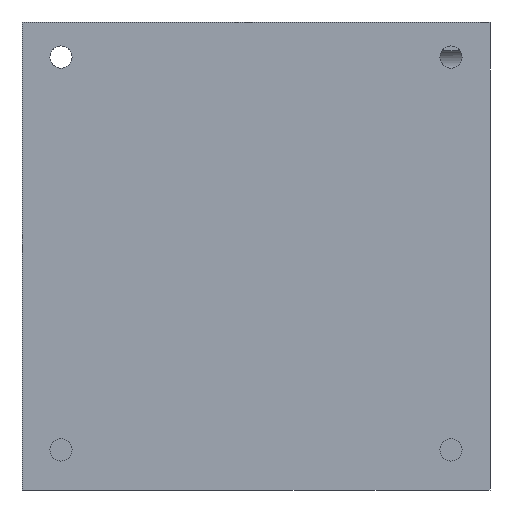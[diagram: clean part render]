
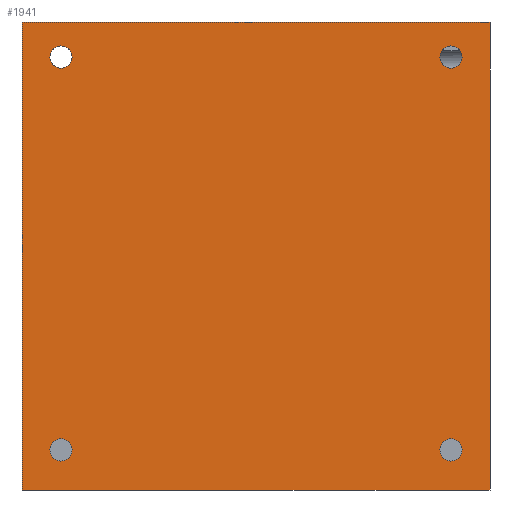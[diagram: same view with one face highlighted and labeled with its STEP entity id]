
A CAD part, left-side view. The second image highlights one B-rep face of the part: STEP entity #1941.
In plain terms, the highlighted planar face has unit normal (-1, 0, 0).
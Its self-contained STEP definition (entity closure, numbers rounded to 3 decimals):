
#58=FACE_BOUND('',#369,.T.);
#59=FACE_BOUND('',#370,.T.);
#60=FACE_BOUND('',#371,.T.);
#61=FACE_BOUND('',#372,.T.);
#117=PLANE('',#2131);
#227=FACE_OUTER_BOUND('',#368,.T.);
#368=EDGE_LOOP('',(#1782,#1783,#1784,#1785));
#369=EDGE_LOOP('',(#1786));
#370=EDGE_LOOP('',(#1787));
#371=EDGE_LOOP('',(#1788));
#372=EDGE_LOOP('',(#1789));
#469=LINE('',#3021,#616);
#528=LINE('',#3716,#675);
#532=LINE('',#3782,#679);
#547=LINE('',#3834,#694);
#616=VECTOR('',#2366,10.);
#675=VECTOR('',#2509,10.);
#679=VECTOR('',#2527,10.);
#694=VECTOR('',#2594,10.);
#739=CIRCLE('',#2008,1.);
#780=CIRCLE('',#2100,1.);
#781=CIRCLE('',#2102,1.);
#782=CIRCLE('',#2104,1.);
#849=VERTEX_POINT('',#2920);
#879=VERTEX_POINT('',#3018);
#880=VERTEX_POINT('',#3020);
#944=VERTEX_POINT('',#3714);
#949=VERTEX_POINT('',#3781);
#958=VERTEX_POINT('',#3822);
#959=VERTEX_POINT('',#3826);
#960=VERTEX_POINT('',#3830);
#1048=EDGE_CURVE('',#849,#849,#739,.T.);
#1089=EDGE_CURVE('',#880,#879,#469,.T.);
#1188=EDGE_CURVE('',#879,#944,#528,.T.);
#1199=EDGE_CURVE('',#949,#880,#532,.T.);
#1217=EDGE_CURVE('',#958,#958,#780,.T.);
#1219=EDGE_CURVE('',#959,#959,#781,.T.);
#1221=EDGE_CURVE('',#960,#960,#782,.T.);
#1223=EDGE_CURVE('',#944,#949,#547,.T.);
#1782=ORIENTED_EDGE('',*,*,#1188,.T.);
#1783=ORIENTED_EDGE('',*,*,#1223,.T.);
#1784=ORIENTED_EDGE('',*,*,#1199,.T.);
#1785=ORIENTED_EDGE('',*,*,#1089,.T.);
#1786=ORIENTED_EDGE('',*,*,#1048,.T.);
#1787=ORIENTED_EDGE('',*,*,#1217,.T.);
#1788=ORIENTED_EDGE('',*,*,#1219,.T.);
#1789=ORIENTED_EDGE('',*,*,#1221,.T.);
#1941=ADVANCED_FACE('',(#227,#58,#59,#60,#61),#117,.T.);
#2008=AXIS2_PLACEMENT_3D('',#2921,#2294,#2295);
#2100=AXIS2_PLACEMENT_3D('',#3823,#2579,#2580);
#2102=AXIS2_PLACEMENT_3D('',#3827,#2584,#2585);
#2104=AXIS2_PLACEMENT_3D('',#3831,#2589,#2590);
#2131=AXIS2_PLACEMENT_3D('',#3880,#2655,#2656);
#2294=DIRECTION('center_axis',(1.,0.,0.));
#2295=DIRECTION('ref_axis',(0.,1.,0.));
#2366=DIRECTION('',(0.,-1.,0.));
#2509=DIRECTION('',(0.,0.,1.));
#2527=DIRECTION('',(0.,0.,-1.));
#2579=DIRECTION('center_axis',(1.,0.,0.));
#2580=DIRECTION('ref_axis',(0.,1.,0.));
#2584=DIRECTION('center_axis',(1.,0.,0.));
#2585=DIRECTION('ref_axis',(0.,1.,0.));
#2589=DIRECTION('center_axis',(1.,0.,0.));
#2590=DIRECTION('ref_axis',(0.,1.,0.));
#2594=DIRECTION('',(0.,1.,0.));
#2655=DIRECTION('center_axis',(-1.,0.,0.));
#2656=DIRECTION('ref_axis',(0.,0.,1.));
#2920=CARTESIAN_POINT('',(-20.5,-18.,38.85));
#2921=CARTESIAN_POINT('Origin',(-20.5,-17.,38.85));
#3018=CARTESIAN_POINT('',(-20.5,-20.5,0.));
#3020=CARTESIAN_POINT('',(-20.5,21.5,0.));
#3021=CARTESIAN_POINT('',(-20.5,-20.5,0.));
#3714=CARTESIAN_POINT('',(-20.5,-20.5,42.));
#3716=CARTESIAN_POINT('',(-20.5,-20.5,42.));
#3781=CARTESIAN_POINT('',(-20.5,21.5,42.));
#3782=CARTESIAN_POINT('',(-20.5,21.5,0.));
#3822=CARTESIAN_POINT('',(-20.5,17.,3.6));
#3823=CARTESIAN_POINT('Origin',(-20.5,18.,3.6));
#3826=CARTESIAN_POINT('',(-20.5,-18.,3.6));
#3827=CARTESIAN_POINT('Origin',(-20.5,-17.,3.6));
#3830=CARTESIAN_POINT('',(-20.5,17.,38.85));
#3831=CARTESIAN_POINT('Origin',(-20.5,18.,38.85));
#3834=CARTESIAN_POINT('',(-20.5,21.5,42.));
#3880=CARTESIAN_POINT('Origin',(-20.5,0.5,21.));
